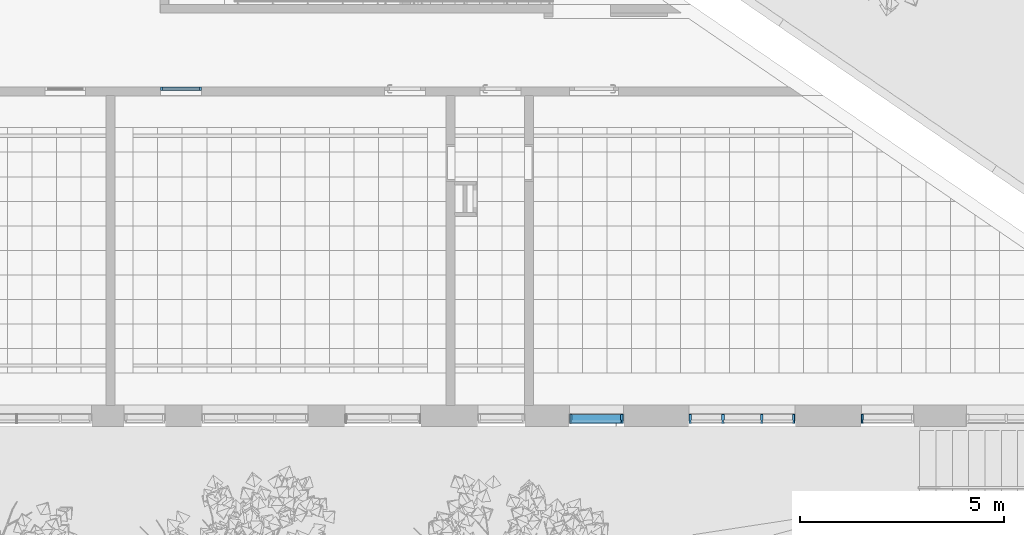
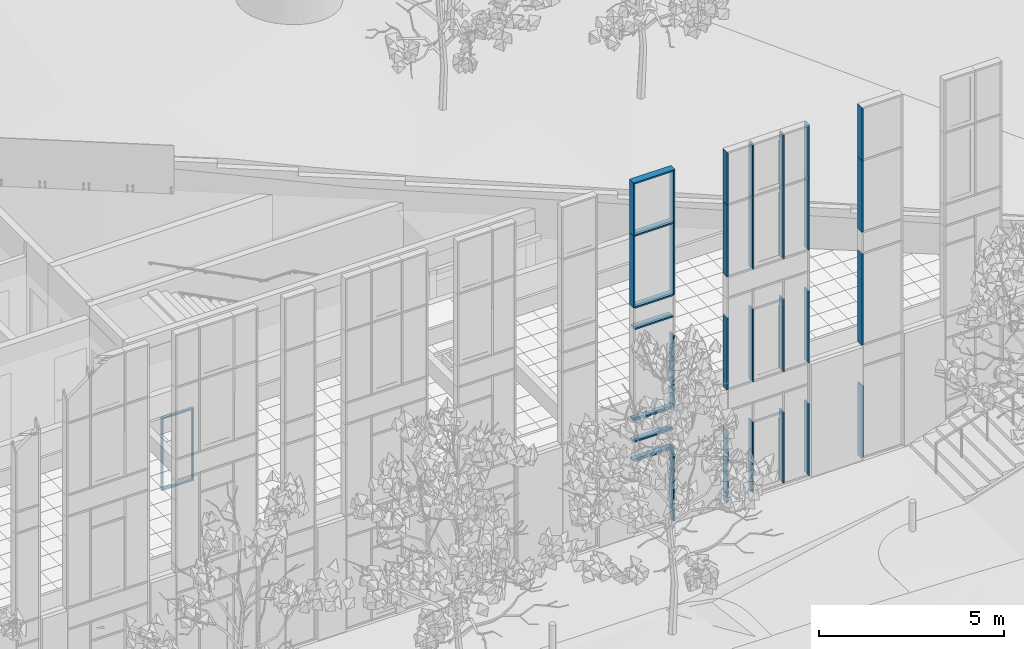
# One storey, part 27 of 246: 37 members, 4 elements without a shape of their own.
"""IFC2X3 building model written with IfcOpenShell, lengths in millimetres."""

from ifc_helpers import new_model, entity, si_unit, converted_unit, derived_unit, money_unit, direction, frame, origin_with_axes, place, context, subcontext, project, spatial, faceted_brep, source, transform, mapped, material, type_object, element, aggregate, save


model = new_model("IFC2X3")

# Units and contexts
model_context = context("Model", 3, precision=0.01, world=origin_with_axes(), true_north=direction((0.0, 1.0)))
body_context = subcontext(model_context, "Body", "Model", "MODEL_VIEW")
ifc_project = project(units=[si_unit("LENGTHUNIT", "METRE", prefix="MILLI"), si_unit("AREAUNIT", "SQUARE_METRE"), si_unit("VOLUMEUNIT", "CUBIC_METRE"), converted_unit("PLANEANGLEUNIT", "DEGREE", entity("IfcPlaneAngleMeasure", 0.0174532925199), si_unit("PLANEANGLEUNIT", "RADIAN"), dimensions=[0, 0, 0, 0, 0, 0, 0]), si_unit("SOLIDANGLEUNIT", "STERADIAN"), money_unit("EUR"), converted_unit("TIMEUNIT", "Year", entity("IfcTimeMeasure", 31556926.0), si_unit("TIMEUNIT", "SECOND"), dimensions=[0, 0, 1, 0, 0, 0, 0]), si_unit("MASSUNIT", "GRAM", prefix="KILO"), si_unit("THERMODYNAMICTEMPERATUREUNIT", "DEGREE_CELSIUS"), si_unit("LUMINOUSINTENSITYUNIT", "LUMEN"), si_unit("ENERGYUNIT", "JOULE", prefix="MEGA"), derived_unit("THERMALCONDUCTANCEUNIT", [(si_unit("POWERUNIT", "WATT"), 1), (si_unit("LENGTHUNIT", "METRE"), -1), (si_unit("THERMODYNAMICTEMPERATUREUNIT", "KELVIN"), -1)]), derived_unit("SPECIFICHEATCAPACITYUNIT", [(si_unit("ENERGYUNIT", "JOULE"), 1), (si_unit("MASSUNIT", "GRAM", prefix="KILO"), -1), (si_unit("THERMODYNAMICTEMPERATUREUNIT", "KELVIN"), -1)]), derived_unit("MASSDENSITYUNIT", [(si_unit("MASSUNIT", "GRAM", prefix="KILO"), 1), (si_unit("VOLUMEUNIT", "CUBIC_METRE"), -1)])], contexts=[model_context])

# Site, building, storey
site_placement = place(None, origin_with_axes())
site = spatial("IfcSite", under=ifc_project, at=site_placement, Name="L.Koidula tn 11b", CompositionType="ELEMENT")
building_placement = place(site_placement, origin_with_axes())
building = spatial("IfcBuilding", under=site, at=building_placement, Name="Rakvere Riigigümnaasium", CompositionType="ELEMENT")
storey_placement = place(building_placement, origin_with_axes())
storey = spatial("IfcBuildingStorey", under=building, at=storey_placement, Name="1.korrus 0,00", CompositionType="ELEMENT", Elevation=0.0)

# Curtain wall, member
curtain_wall_type = type_object("IfcCurtainWallType", Name="Curtain Wall Type", PredefinedType="NOTDEFINED")
curtain_wall_1_placement = place(storey_placement, frame((93770.0000115, 5111.45334637, -1.61944652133e-05), z_axis=(0.0, 0.0, 1.0), x_axis=(1.0, 0.0, 0.0)))
curtain_wall_1 = element("IfcCurtainWall", 1, at=curtain_wall_1_placement, inside=storey, type_object=curtain_wall_type, Name="KLF-05-1E")
ifc_material_1 = material(Name="Alumiiniumprofiil (RAL 7021)")
member_type_1 = type_object("IfcMemberType", Name="Boundary Frame 50 x 222", PredefinedType="MULLION")
shared_shape_1 = source(origin_with_axes(), body_context, "Body", "Brep", [
    faceted_brep([(37.0, -32.5, 2375.00000025), (37.0, 32.5, 2375.00000025), (50.0, 32.5, 2375.00000025), (50.0, 53.0, 2375.00000025), (0.0, 53.0, 2375.00000025), (0.0, -169.0, 2375.00000025), (50.0, -169.0, 2375.00000025), (50.0, -32.5, 2375.00000025), (37.0, -32.5, -2.4712543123e-07), (37.0, 32.5, -2.4712543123e-07), (50.0, 32.5, -2.47125653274e-07), (50.0, 53.0, -2.47125653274e-07), (0.0, 53.0, -2.47125653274e-07), (0.0, -169.0, -2.47125653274e-07), (50.0, -169.0, -2.47125653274e-07), (50.0, -32.5, -2.47125653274e-07)], [[[0, 1, 2, 3, 4, 5, 6, 7]], [[1, 0, 8, 9]], [[10, 2, 1, 9]], [[2, 10, 11, 3]], [[12, 4, 3, 11]], [[13, 5, 4, 12]], [[14, 6, 5, 13]], [[15, 7, 6, 14]], [[0, 7, 15, 8]], [[8, 15, 14, 13, 12, 11, 10, 9]]]),
])
member_1_placement = place(curtain_wall_1_placement, frame((-640.000084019, 0.0, 9840.0), z_axis=(0.0, 0.0, -1.0), x_axis=(1.0, 0.0, 0.0)))
member_1 = element("IfcMember", 2, at=member_1_placement, type_object=member_type_1, material=ifc_material_1, Name="KLF-05-4A-Profiilid", ObjectType="MULLION", context=body_context, shape_type="MappedRepresentation", body=[
    mapped(shared_shape_1, transform((0.0, 0.0, 0.0))),
])

# Curtain wall, members
curtain_wall_2_placement = place(storey_placement, frame((86440.3647921, 5111.45334637, -1.61944652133e-05), z_axis=(0.0, 0.0, 1.0), x_axis=(1.0, 0.0, 0.0)))
curtain_wall_2 = element("IfcCurtainWall", 3, at=curtain_wall_2_placement, inside=storey, type_object=curtain_wall_type, Name="KLF-05-1A")
member_2_placement = place(curtain_wall_2_placement, frame((859.6355553, 0.0, 3745.0), z_axis=(0.0, 0.0, 1.0), x_axis=(-1.0, 0.0, 0.0)))
member_2 = element("IfcMember", 4, at=member_2_placement, type_object=member_type_1, material=ifc_material_1, Name="KLF-05-2A-Profiilid", ObjectType="MULLION", context=body_context, shape_type="MappedRepresentation", body=[
    mapped(shared_shape_1, transform((0.0, 0.0, 0.0))),
])
member_3_placement = place(curtain_wall_2_placement, frame((859.635603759, 0.0, 7465.0), z_axis=(3.13708955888e-08, 0.0, 1.0), x_axis=(-1.0, 0.0, 3.13708955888e-08)))
member_3 = element("IfcMember", 5, at=member_3_placement, type_object=member_type_1, material=ifc_material_1, Name="KLF-05-5A-Profiilid", ObjectType="MULLION", context=body_context, shape_type="MappedRepresentation", body=[
    mapped(shared_shape_1, transform((0.0, 0.0, 0.0))),
])

curtain_wall_3_placement = place(storey_placement, frame((90220.0003282, 5111.43278481, -1.61944594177e-05), z_axis=(0.0, 0.0, 1.0), x_axis=(1.0, 0.0, 0.0)))
curtain_wall_3 = element("IfcCurtainWall", 6, at=curtain_wall_3_placement, inside=storey, type_object=curtain_wall_type, Name="KLF-05-3A")
member_4_placement = place(curtain_wall_3_placement, frame((1279.99946018, -0.0202452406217, 7465.0), z_axis=(2.10851387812e-09, 0.0, 1.0), x_axis=(-0.999999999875, 1.58166009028e-05, 2.10851387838e-09)))
member_4 = element("IfcMember", 7, at=member_4_placement, type_object=member_type_1, material=ifc_material_1, Name="KLF-05-1A-Profiilid", ObjectType="MULLION", context=body_context, shape_type="MappedRepresentation", body=[
    mapped(shared_shape_1, transform((0.0, 0.0, 0.0))),
])
member_5_placement = place(curtain_wall_3_placement, frame((1279.99946018, -0.0202452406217, 3745.0), z_axis=(0.0, 0.0, 1.0), x_axis=(-0.999999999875, 1.58166009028e-05, 0.0)))
member_5 = element("IfcMember", 8, at=member_5_placement, type_object=member_type_1, material=ifc_material_1, Name="KLF-05-8A-Profiilid", ObjectType="MULLION", context=body_context, shape_type="MappedRepresentation", body=[
    mapped(shared_shape_1, transform((0.0, 0.0, 0.0))),
])

# Member
shared_shape_2 = source(origin_with_axes(), body_context, "Body", "Brep", [
    faceted_brep([(-37.0, -32.5, 2375.0), (-50.0, -32.5, 2375.0), (-50.0, -169.0, 2375.0), (0.0, -169.0, 2375.0), (0.0, 53.0, 2375.0), (-50.0, 53.0, 2375.0), (-50.0, 32.5, 2375.0), (-37.0, 32.5, 2375.0), (-37.0, -32.5, 0.0), (-50.0, -32.5, 0.0), (-50.0, -169.0, 0.0), (0.0, -169.0, 0.0), (0.0, 53.0, 0.0), (-50.0, 53.0, 0.0), (-50.0, 32.5, 0.0), (-37.0, 32.5, 0.0)], [[[0, 1, 2, 3, 4, 5, 6, 7]], [[0, 8, 9, 1]], [[9, 10, 2, 1]], [[10, 11, 3, 2]], [[11, 12, 4, 3]], [[12, 13, 5, 4]], [[6, 5, 13, 14]], [[14, 15, 7, 6]], [[7, 15, 8, 0]], [[8, 15, 14, 13, 12, 11, 10, 9]]]),
])
member_6_placement = place(curtain_wall_2_placement, frame((-440.585924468, 0.0, 7465.0), z_axis=(0.0, 0.0, 1.0), x_axis=(-1.0, 0.0, 0.0)))
member_6 = element("IfcMember", 9, at=member_6_placement, type_object=member_type_1, material=ifc_material_1, Name="KLF-05-9A-Profiilid", ObjectType="MULLION", context=body_context, shape_type="MappedRepresentation", body=[
    mapped(shared_shape_2, transform((0.0, 0.0, 0.0))),
])

member_7_placement = place(curtain_wall_3_placement, frame((-1299.99999984, 0.0205615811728, 3745.0), z_axis=(0.0, 0.0, 1.0), x_axis=(-0.999999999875, 1.58166009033e-05, 0.0)))
member_7 = element("IfcMember", 10, at=member_7_placement, type_object=member_type_1, material=ifc_material_1, Name="KLF-05-0A-Profiilid", ObjectType="MULLION", context=body_context, shape_type="MappedRepresentation", body=[
    mapped(shared_shape_2, transform((0.0, 0.0, 0.0))),
])

member_8_placement = place(curtain_wall_3_placement, frame((-1299.99999984, 0.0205615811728, 7465.0), z_axis=(0.0, 0.0, 1.0), x_axis=(-0.999999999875, 1.58166009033e-05, 0.0)))
member_8 = element("IfcMember", 11, at=member_8_placement, type_object=member_type_1, material=ifc_material_1, Name="KLF-05-7A-Profiilid", ObjectType="MULLION", context=body_context, shape_type="MappedRepresentation", body=[
    mapped(shared_shape_2, transform((0.0, 0.0, 0.0))),
])

shared_shape_3 = source(origin_with_axes(), body_context, "Body", "Brep", [
    faceted_brep([(37.0, -32.5, 1712.99983191), (37.0, 32.5, 1712.99983191), (50.0, 32.5, 1699.99983191), (50.0, 53.0, 1699.99983191), (0.0, 53.0, 1749.99983191), (0.0, -169.0, 1749.99983191), (50.0, -169.0, 1699.99983191), (50.0, -32.5, 1699.99983191), (37.0, -32.5, -2.47125875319e-07), (37.0, 32.5, -2.47125875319e-07), (50.0, 32.5, -2.47125764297e-07), (50.0, 53.0, -2.47125764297e-07), (0.0, 53.0, -2.47125764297e-07), (0.0, -169.0, -2.47125764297e-07), (50.0, -169.0, -2.47125764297e-07), (50.0, -32.5, -2.47125764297e-07)], [[[0, 1, 2, 3, 4, 5, 6, 7]], [[1, 0, 8, 9]], [[10, 2, 1, 9]], [[2, 10, 11, 3]], [[12, 4, 3, 11]], [[13, 5, 4, 12]], [[14, 6, 5, 13]], [[15, 7, 6, 14]], [[0, 7, 15, 8]], [[8, 15, 14, 13, 12, 11, 10, 9]]]),
])
member_9_placement = place(curtain_wall_2_placement, frame((859.635678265, 0.0, 9840.0), z_axis=(0.0, 0.0, 1.0), x_axis=(-1.0, 0.0, 0.0)))
member_9 = element("IfcMember", 12, at=member_9_placement, type_object=member_type_1, material=ifc_material_1, Name="KLF-05-6A-Profiilid", ObjectType="MULLION", context=body_context, shape_type="MappedRepresentation", body=[
    mapped(shared_shape_3, transform((0.0, 0.0, 0.0))),
])

member_10_placement = place(curtain_wall_3_placement, frame((1279.99946519, -0.0202452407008, 9840.0), z_axis=(3.89462512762e-08, 0.0, 1.0), x_axis=(-0.999999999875, 1.58166009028e-05, 3.89462512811e-08)))
member_10 = element("IfcMember", 13, at=member_10_placement, type_object=member_type_1, material=ifc_material_1, Name="KLF-05-2A-Profiilid", ObjectType="MULLION", context=body_context, shape_type="MappedRepresentation", body=[
    mapped(shared_shape_3, transform((0.0, 0.0, 0.0))),
])

member_type_2 = type_object("IfcMemberType", Name="Mullion Frame 50 x 222", PredefinedType="MULLION")
shared_shape_4 = source(origin_with_axes(), body_context, "Body", "Brep", [
    faceted_brep([(-12.0, -32.5, 2375.0), (-25.0, -32.5, 2375.0), (-25.0, -169.0, 2375.0), (25.0, -169.0, 2375.0), (25.0, -32.5, 2375.0), (12.0, -32.5, 2375.0), (12.0, 32.5, 2375.0), (25.0, 32.5, 2375.0), (25.0, 53.0, 2375.0), (-25.0, 53.0, 2375.0), (-25.0, 32.5, 2375.0), (-12.0, 32.5, 2375.0), (-12.0, -32.5, -25.0), (-25.0, -32.5, -25.0), (-25.0, -169.0, -25.0), (25.0, -169.0, -25.0), (25.0, -32.5, -25.0), (12.0, -32.5, -25.0), (12.0, 32.5, -25.0), (25.0, 32.5, -25.0), (25.0, 53.0, -25.0), (-25.0, 53.0, -25.0), (-25.0, 32.5, -25.0), (-12.0, 32.5, -25.0)], [[[0, 1, 2, 3, 4, 5, 6, 7, 8, 9, 10, 11]], [[1, 0, 12, 13]], [[1, 13, 14, 2]], [[3, 2, 14, 15]], [[4, 3, 15, 16]], [[4, 16, 17, 5]], [[5, 17, 18, 6]], [[7, 6, 18, 19]], [[19, 20, 8, 7]], [[9, 8, 20, 21]], [[22, 10, 9, 21]], [[11, 10, 22, 23]], [[0, 11, 23, 12]], [[23, 22, 21, 20, 19, 18, 17, 16, 15, 14, 13, 12]]]),
])
member_11_placement = place(curtain_wall_3_placement, frame((474.999999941, -0.00751288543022, 7465.0), z_axis=(0.0, 0.0, 1.0), x_axis=(-0.999999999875, 1.58166009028e-05, 0.0)))
member_11 = element("IfcMember", 14, at=member_11_placement, type_object=member_type_2, material=ifc_material_1, Name="KLF-05-4A-Profiilid", ObjectType="MULLION", context=body_context, shape_type="MappedRepresentation", body=[
    mapped(shared_shape_4, transform((0.0, 0.0, 0.0))),
])

member_12_placement = place(curtain_wall_3_placement, frame((-474.999999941, 0.00751288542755, 3745.0), z_axis=(0.0, 0.0, 1.0), x_axis=(-0.999999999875, 1.58166009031e-05, 0.0)))
member_12 = element("IfcMember", 15, at=member_12_placement, type_object=member_type_2, material=ifc_material_1, Name="KLF-05-3A-Profiilid", ObjectType="MULLION", context=body_context, shape_type="MappedRepresentation", body=[
    mapped(shared_shape_4, transform((0.0, 0.0, 0.0))),
])

member_13_placement = place(curtain_wall_3_placement, frame((-474.999999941, 0.00751288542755, 7465.0), z_axis=(0.0, 0.0, 1.0), x_axis=(-0.999999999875, 1.58166009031e-05, 0.0)))
member_13 = element("IfcMember", 16, at=member_13_placement, type_object=member_type_2, material=ifc_material_1, Name="KLF-05-3A-Profiilid", ObjectType="MULLION", context=body_context, shape_type="MappedRepresentation", body=[
    mapped(shared_shape_4, transform((0.0, 0.0, 0.0))),
])

member_14_placement = place(curtain_wall_3_placement, frame((474.999999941, -0.00751288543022, 3745.0), z_axis=(0.0, 0.0, 1.0), x_axis=(-0.999999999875, 1.58166009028e-05, 0.0)))
member_14 = element("IfcMember", 17, at=member_14_placement, type_object=member_type_2, material=ifc_material_1, Name="KLF-05-3A-Profiilid", ObjectType="MULLION", context=body_context, shape_type="MappedRepresentation", body=[
    mapped(shared_shape_4, transform((0.0, 0.0, 0.0))),
])

shared_shape_5 = source(origin_with_axes(), body_context, "Body", "Brep", [
    faceted_brep([(37.0, -32.5, 2400.0), (37.0, 32.5, 2400.0), (50.0, 32.5, 2400.0), (50.0, 53.0, 2400.0), (0.0, 53.0, 2400.0), (0.0, -169.0, 2400.0), (50.0, -169.0, 2400.0), (50.0, -32.5, 2400.0), (37.0, -32.5, 37.0), (37.0, 32.5, 37.0), (50.0, 32.5, 50.0), (50.0, 53.0, 50.0), (0.0, 53.0, 0.0), (0.0, -169.0, 0.0), (50.0, -169.0, 50.0), (50.0, -32.5, 50.0)], [[[0, 1, 2, 3, 4, 5, 6, 7]], [[1, 0, 8, 9]], [[10, 2, 1, 9]], [[2, 10, 11, 3]], [[4, 3, 11, 12]], [[5, 4, 12, 13]], [[6, 5, 13, 14]], [[15, 7, 6, 14]], [[0, 7, 15, 8]], [[8, 15, 14, 13, 12, 11, 10, 9]]]),
])
member_15_placement = place(curtain_wall_3_placement, frame((1279.99946018, -0.0202452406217, 0.0), z_axis=(0.0, 0.0, 1.0), x_axis=(-0.999999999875, 1.58166009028e-05, 0.0)))
member_15 = element("IfcMember", 18, at=member_15_placement, type_object=member_type_1, material=ifc_material_1, Name="KLF-05-5A-Profiilid", ObjectType="MULLION", context=body_context, shape_type="MappedRepresentation", body=[
    mapped(shared_shape_5, transform((0.0, 0.0, 0.0))),
])

shared_shape_6 = source(origin_with_axes(), body_context, "Body", "Brep", [
    faceted_brep([(-12.0, -32.5, 1699.99983191), (-25.0, -32.5, 1699.99983191), (-25.0, -169.0, 1699.99983191), (25.0, -169.0, 1699.99983191), (25.0, -32.5, 1699.99983191), (12.0, -32.5, 1699.99983191), (12.0, 32.5, 1699.99983191), (25.0, 32.5, 1699.99983191), (25.0, 53.0, 1699.99983191), (-25.0, 53.0, 1699.99983191), (-25.0, 32.5, 1699.99983191), (-12.0, 32.5, 1699.99983191), (-12.0, -32.5, 0.0), (-25.0, -32.5, 0.0), (-25.0, -169.0, 0.0), (25.0, -169.0, 0.0), (25.0, -32.5, 0.0), (12.0, -32.5, 0.0), (12.0, 32.5, 0.0), (25.0, 32.5, 0.0), (25.0, 53.0, 0.0), (-25.0, 53.0, 0.0), (-25.0, 32.5, 0.0), (-12.0, 32.5, 0.0)], [[[0, 1, 2, 3, 4, 5, 6, 7, 8, 9, 10, 11]], [[1, 0, 12, 13]], [[1, 13, 14, 2]], [[3, 2, 14, 15]], [[4, 3, 15, 16]], [[4, 16, 17, 5]], [[5, 17, 18, 6]], [[7, 6, 18, 19]], [[19, 20, 8, 7]], [[9, 8, 20, 21]], [[22, 10, 9, 21]], [[11, 10, 22, 23]], [[0, 11, 23, 12]], [[23, 22, 21, 20, 19, 18, 17, 16, 15, 14, 13, 12]]]),
])
member_16_placement = place(curtain_wall_3_placement, frame((-474.999999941, 0.00751288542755, 9840.0), z_axis=(0.0, 0.0, 1.0), x_axis=(-0.999999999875, 1.58166009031e-05, 0.0)))
member_16 = element("IfcMember", 19, at=member_16_placement, type_object=member_type_2, material=ifc_material_1, Name="KLF-05-9A-Profiilid", ObjectType="MULLION", context=body_context, shape_type="MappedRepresentation", body=[
    mapped(shared_shape_6, transform((0.0, 0.0, 0.0))),
])

member_17_placement = place(curtain_wall_3_placement, frame((474.999999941, -0.00751288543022, 9840.0), z_axis=(0.0, 0.0, 1.0), x_axis=(-0.999999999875, 1.58166009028e-05, 0.0)))
member_17 = element("IfcMember", 20, at=member_17_placement, type_object=member_type_2, material=ifc_material_1, Name="KLF-05-0A-Profiilid", ObjectType="MULLION", context=body_context, shape_type="MappedRepresentation", body=[
    mapped(shared_shape_6, transform((0.0, 0.0, 0.0))),
])

shared_shape_7 = source(origin_with_axes(), body_context, "Body", "Brep", [
    faceted_brep([(-37.0, -32.5, 2400.0), (-50.0, -32.5, 2400.0), (-50.0, -169.0, 2400.0), (0.0, -169.0, 2400.0), (0.0, 53.0, 2400.0), (-50.0, 53.0, 2400.0), (-50.0, 32.5, 2400.0), (-37.0, 32.5, 2400.0), (-37.0, -32.5, 37.0), (-50.0, -32.5, 50.0), (-50.0, -169.0, 50.0), (0.0, -169.0, 0.0), (0.0, 53.0, 0.0), (-50.0, 53.0, 50.0), (-50.0, 32.5, 50.0), (-37.0, 32.5, 37.0)], [[[0, 1, 2, 3, 4, 5, 6, 7]], [[0, 8, 9, 1]], [[9, 10, 2, 1]], [[2, 10, 11, 3]], [[3, 11, 12, 4]], [[4, 12, 13, 5]], [[6, 5, 13, 14]], [[14, 15, 7, 6]], [[7, 15, 8, 0]], [[8, 15, 14, 13, 12, 11, 10, 9]]]),
])
member_18_placement = place(curtain_wall_3_placement, frame((-1299.99999984, 0.0205615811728, 0.0), z_axis=(0.0, 0.0, 1.0), x_axis=(-0.999999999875, 1.58166009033e-05, 0.0)))
member_18 = element("IfcMember", 21, at=member_18_placement, type_object=member_type_1, material=ifc_material_1, Name="KLF-05-1A-Profiilid", ObjectType="MULLION", context=body_context, shape_type="MappedRepresentation", body=[
    mapped(shared_shape_7, transform((0.0, 0.0, 0.0))),
])

shared_shape_8 = source(origin_with_axes(), body_context, "Body", "Brep", [
    faceted_brep([(-37.0, -32.5, 1712.99983191), (-50.0, -32.5, 1699.99983191), (-50.0, -169.0, 1699.99983191), (0.0, -169.0, 1749.99983191), (0.0, 53.0, 1749.99983191), (-50.0, 53.0, 1699.99983191), (-50.0, 32.5, 1699.99983191), (-37.0, 32.5, 1712.99983191), (-37.0, -32.5, 0.0), (-50.0, -32.5, 0.0), (-50.0, -169.0, 0.0), (0.0, -169.0, 0.0), (0.0, 53.0, 0.0), (-50.0, 53.0, 0.0), (-50.0, 32.5, 0.0), (-37.0, 32.5, 0.0)], [[[0, 1, 2, 3, 4, 5, 6, 7]], [[0, 8, 9, 1]], [[9, 10, 2, 1]], [[10, 11, 3, 2]], [[11, 12, 4, 3]], [[12, 13, 5, 4]], [[6, 5, 13, 14]], [[14, 15, 7, 6]], [[7, 15, 8, 0]], [[8, 15, 14, 13, 12, 11, 10, 9]]]),
])
member_19_placement = place(curtain_wall_2_placement, frame((-440.585924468, 0.0, 9840.0), z_axis=(0.0, 0.0, 1.0), x_axis=(-1.0, 0.0, 0.0)))
member_19 = element("IfcMember", 22, at=member_19_placement, type_object=member_type_1, material=ifc_material_1, Name="KLF-05-8A-Profiilid", ObjectType="MULLION", context=body_context, shape_type="MappedRepresentation", body=[
    mapped(shared_shape_8, transform((0.0, 0.0, 0.0))),
])

member_20_placement = place(curtain_wall_3_placement, frame((-1299.99999984, 0.0205615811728, 9840.0), z_axis=(0.0, 0.0, 1.0), x_axis=(-0.999999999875, 1.58166009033e-05, 0.0)))
member_20 = element("IfcMember", 23, at=member_20_placement, type_object=member_type_1, material=ifc_material_1, Name="KLF-05-6A-Profiilid", ObjectType="MULLION", context=body_context, shape_type="MappedRepresentation", body=[
    mapped(shared_shape_8, transform((0.0, 0.0, 0.0))),
])

shared_shape_9 = source(origin_with_axes(), body_context, "Body", "Brep", [
    faceted_brep([(37.0, -32.5, 3015.0), (37.0, 32.5, 3015.0), (50.0, 32.5, 3015.0), (50.0, 53.0, 3015.0), (0.0, 53.0, 3015.0), (0.0, -169.0, 3015.0), (50.0, -169.0, 3015.0), (50.0, -32.5, 3015.0), (37.0, -32.5, 0.0), (37.0, 32.5, 0.0), (50.0, 32.5, 0.0), (50.0, 53.0, 0.0), (0.0, 53.0, 0.0), (0.0, -169.0, 0.0), (50.0, -169.0, 0.0), (50.0, -32.5, 0.0)], [[[0, 1, 2, 3, 4, 5, 6, 7]], [[1, 0, 8, 9]], [[10, 2, 1, 9]], [[2, 10, 11, 3]], [[12, 4, 3, 11]], [[13, 5, 4, 12]], [[14, 6, 5, 13]], [[15, 7, 6, 14]], [[0, 7, 15, 8]], [[8, 15, 14, 13, 12, 11, 10, 9]]]),
])
member_21_placement = place(curtain_wall_1_placement, frame((-640.000084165, 0.0, 6760.0), z_axis=(0.0, 0.0, -1.0), x_axis=(1.0, 0.0, 0.0)))
member_21 = element("IfcMember", 24, at=member_21_placement, type_object=member_type_1, material=ifc_material_1, Name="KLF-05-6A-Profiilid", ObjectType="MULLION", context=body_context, shape_type="MappedRepresentation", body=[
    mapped(shared_shape_9, transform((0.0, 0.0, 0.0))),
])

shared_shape_10 = source(origin_with_axes(), body_context, "Body", "Brep", [
    faceted_brep([(-12.0, -32.5, 2400.0), (-25.0, -32.5, 2400.0), (-25.0, -169.0, 2400.0), (25.0, -169.0, 2400.0), (25.0, -32.5, 2400.0), (12.0, -32.5, 2400.0), (12.0, 32.5, 2400.0), (25.0, 32.5, 2400.0), (25.0, 53.0, 2400.0), (-25.0, 53.0, 2400.0), (-25.0, 32.5, 2400.0), (-12.0, 32.5, 2400.0), (-12.0, -32.5, 50.0), (-25.0, -32.5, 50.0), (-25.0, -169.0, 50.0), (25.0, -169.0, 50.0), (25.0, -32.5, 50.0), (12.0, -32.5, 50.0), (12.0, 32.5, 50.0), (25.0, 32.5, 50.0), (25.0, 53.0, 50.0), (-25.0, 53.0, 50.0), (-25.0, 32.5, 50.0), (-12.0, 32.5, 50.0)], [[[0, 1, 2, 3, 4, 5, 6, 7, 8, 9, 10, 11]], [[1, 0, 12, 13]], [[1, 13, 14, 2]], [[2, 14, 15, 3]], [[4, 3, 15, 16]], [[4, 16, 17, 5]], [[5, 17, 18, 6]], [[7, 6, 18, 19]], [[19, 20, 8, 7]], [[8, 20, 21, 9]], [[22, 10, 9, 21]], [[11, 10, 22, 23]], [[0, 11, 23, 12]], [[23, 22, 21, 20, 19, 18, 17, 16, 15, 14, 13, 12]]]),
])
member_22_placement = place(curtain_wall_3_placement, frame((-474.999999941, 0.00751288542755, 0.0), z_axis=(0.0, 0.0, 1.0), x_axis=(-0.999999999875, 1.58166009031e-05, 0.0)))
member_22 = element("IfcMember", 25, at=member_22_placement, type_object=member_type_2, material=ifc_material_1, Name="KLF-05-3A-Profiilid", ObjectType="MULLION", context=body_context, shape_type="MappedRepresentation", body=[
    mapped(shared_shape_10, transform((0.0, 0.0, 0.0))),
])

member_23_placement = place(curtain_wall_3_placement, frame((474.999999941, -0.00751288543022, 0.0), z_axis=(0.0, 0.0, 1.0), x_axis=(-0.999999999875, 1.58166009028e-05, 0.0)))
member_23 = element("IfcMember", 26, at=member_23_placement, type_object=member_type_2, material=ifc_material_1, Name="KLF-05-3A-Profiilid", ObjectType="MULLION", context=body_context, shape_type="MappedRepresentation", body=[
    mapped(shared_shape_10, transform((0.0, 0.0, 0.0))),
])

aggregate(curtain_wall_3, [member_22, member_23, member_11, member_12, member_13, member_14, member_18, member_7, member_8, member_4, member_5, member_15, member_20, member_16, member_17, member_10])

member_type_3 = type_object("IfcMemberType", Name="Transom Frame 50 x 222", PredefinedType="MULLION")
shared_shape_11 = source(origin_with_axes(), body_context, "Body", "Brep", [
    faceted_brep([(-12.0, -32.5, 1250.22152721), (-25.0, -32.5, 1250.22152721), (-25.0, -169.0, 1250.22152293), (25.0, -169.0, 1250.22152293), (25.0, -32.5, 1250.22152721), (12.0, -32.5, 1250.22152721), (12.0, 32.5, 1250.22152925), (25.0, 32.5, 1250.22152925), (25.0, 53.0, 1250.22152989), (-25.0, 53.0, 1250.22152989), (-25.0, 32.5, 1250.22152925), (-12.0, 32.5, 1250.22152925), (-12.0, -32.5, 50.0), (-25.0, -32.5, 50.0), (-25.0, -169.0, 50.0), (25.0, -169.0, 50.0), (25.0, -32.5, 50.0), (12.0, -32.5, 50.0), (12.0, 32.5, 50.0), (25.0, 32.5, 50.0), (25.0, 53.0, 50.0), (-25.0, 53.0, 50.0), (-25.0, 32.5, 50.0), (-12.0, 32.5, 50.0)], [[[0, 1, 2, 3, 4, 5, 6, 7, 8, 9, 10, 11]], [[1, 0, 12, 13]], [[1, 13, 14, 2]], [[2, 14, 15, 3]], [[4, 3, 15, 16]], [[4, 16, 17, 5]], [[5, 17, 18, 6]], [[7, 6, 18, 19]], [[19, 20, 8, 7]], [[8, 20, 21, 9]], [[22, 10, 9, 21]], [[11, 10, 22, 23]], [[0, 11, 23, 12]], [[23, 22, 21, 20, 19, 18, 17, 16, 15, 14, 13, 12]]]),
])
member_24_placement = place(curtain_wall_2_placement, frame((-440.585924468, 0.0, 7465.0), z_axis=(1.0, 0.0, 0.0), x_axis=(0.0, 0.0, 1.0)))
member_24 = element("IfcMember", 27, at=member_24_placement, type_object=member_type_3, material=ifc_material_1, Name="KLF-05-9A-Profiilid", ObjectType="MULLION", context=body_context, shape_type="MappedRepresentation", body=[
    mapped(shared_shape_11, transform((0.0, 0.0, 0.0))),
])

member_25_placement = place(curtain_wall_2_placement, frame((-440.585924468, 0.0, 6760.0), z_axis=(1.0, 0.0, 0.0), x_axis=(0.0, 0.0, 1.0)))
member_25 = element("IfcMember", 28, at=member_25_placement, type_object=member_type_3, material=ifc_material_1, Name="KLF-05-0A-Profiilid", ObjectType="MULLION", context=body_context, shape_type="MappedRepresentation", body=[
    mapped(shared_shape_11, transform((0.0, 0.0, 0.0))),
])

member_26_placement = place(curtain_wall_2_placement, frame((-440.585924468, 0.0, 9840.0), z_axis=(1.0, 0.0, 0.0), x_axis=(0.0, 0.0, 1.0)))
member_26 = element("IfcMember", 29, at=member_26_placement, type_object=member_type_3, material=ifc_material_1, Name="KLF-05-8A-Profiilid", ObjectType="MULLION", context=body_context, shape_type="MappedRepresentation", body=[
    mapped(shared_shape_11, transform((0.0, 0.0, 0.0))),
])

member_type_4 = type_object("IfcMemberType", Name="50 x 208", PredefinedType="MULLION")
shared_shape_12 = source(origin_with_axes(), body_context, "Body", "Brep", [
    faceted_brep([(-12.0, -27.0, 1228.68518613), (-25.0, -27.0, 1228.68518613), (-25.0, -160.0, 1228.68518613), (25.0, -160.0, 1228.68518613), (25.0, -27.0, 1228.68518613), (12.0, -27.0, 1228.68518613), (12.0, 27.0, 1228.68518613), (25.0, 27.0, 1228.68518613), (25.0, 48.0, 1228.68518613), (-25.0, 48.0, 1228.68518613), (-25.0, 27.0, 1228.68518613), (-12.0, 27.0, 1228.68518613), (-12.0, -27.0, 0.0), (-25.0, -27.0, 0.0), (-25.0, -160.0, 0.0), (25.0, -160.0, 0.0), (25.0, -27.0, 0.0), (12.0, -27.0, 0.0), (12.0, 27.0, 0.0), (25.0, 27.0, 0.0), (25.0, 48.0, 0.0), (-25.0, 48.0, 0.0), (-25.0, 27.0, 0.0), (-12.0, 27.0, 0.0)], [[[0, 1, 2, 3, 4, 5, 6, 7, 8, 9, 10, 11]], [[1, 0, 12, 13]], [[1, 13, 14, 2]], [[3, 2, 14, 15]], [[4, 3, 15, 16]], [[4, 16, 17, 5]], [[5, 17, 18, 6]], [[7, 6, 18, 19]], [[19, 20, 8, 7]], [[9, 8, 20, 21]], [[22, 10, 9, 21]], [[11, 10, 22, 23]], [[0, 11, 23, 12]], [[23, 22, 21, 20, 19, 18, 17, 16, 15, 14, 13, 12]]]),
])
member_27_placement = place(curtain_wall_2_placement, frame((-419.049630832, 0.0, 3745.0), z_axis=(1.0, 0.0, 0.0), x_axis=(0.0, 0.0, 1.0)))
member_27 = element("IfcMember", 30, at=member_27_placement, type_object=member_type_4, material=ifc_material_1, Name="KLF-01-1A-profiilid", ObjectType="MULLION", context=body_context, shape_type="MappedRepresentation", body=[
    mapped(shared_shape_12, transform((0.0, 0.0, 0.0))),
])

member_28_placement = place(curtain_wall_2_placement, frame((-419.049630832, 0.0, 3040.0), z_axis=(1.0, 0.0, 0.0), x_axis=(0.0, 0.0, 1.0)))
member_28 = element("IfcMember", 31, at=member_28_placement, type_object=member_type_4, material=ifc_material_1, Name="KLF-01-1A-profiilid", ObjectType="MULLION", context=body_context, shape_type="MappedRepresentation", body=[
    mapped(shared_shape_12, transform((0.0, 0.0, 0.0))),
])

member_29_placement = place(curtain_wall_2_placement, frame((-419.049630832, 0.0, 2400.0), z_axis=(1.0, 0.0, 0.0), x_axis=(0.0, 0.0, 1.0)))
member_29 = element("IfcMember", 32, at=member_29_placement, type_object=member_type_4, material=ifc_material_1, Name="KLF-01-1A-profiilid", ObjectType="MULLION", context=body_context, shape_type="MappedRepresentation", body=[
    mapped(shared_shape_12, transform((0.0, 0.0, 0.0))),
])

shared_shape_13 = source(origin_with_axes(), body_context, "Body", "Brep", [
    faceted_brep([(37.0, -32.5, 2363.0), (37.0, 32.5, 2363.0), (50.0, 32.5, 2350.0), (50.0, 53.0, 2350.0), (0.0, 53.0, 2400.0), (0.0, -169.0, 2400.0), (50.0, -169.0, 2350.0), (50.0, -32.5, 2350.0), (37.0, -32.5, 0.0), (37.0, 32.5, 0.0), (50.0, 32.5, 0.0), (50.0, 53.0, 0.0), (0.0, 53.0, 0.0), (0.0, -169.0, 0.0), (50.0, -169.0, 0.0), (50.0, -32.5, 0.0)], [[[0, 1, 2, 3, 4, 5, 6, 7]], [[1, 0, 8, 9]], [[10, 2, 1, 9]], [[2, 10, 11, 3]], [[12, 4, 3, 11]], [[13, 5, 4, 12]], [[14, 6, 5, 13]], [[15, 7, 6, 14]], [[0, 7, 15, 8]], [[8, 15, 14, 13, 12, 11, 10, 9]]]),
])
member_30_placement = place(curtain_wall_1_placement, frame((-640.000084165, 0.0, 2400.0), z_axis=(0.0, 0.0, -1.0), x_axis=(1.0, 0.0, 0.0)))
member_30 = element("IfcMember", 33, at=member_30_placement, type_object=member_type_1, material=ifc_material_1, Name="KLF-05-9A-Profiilid", ObjectType="MULLION", context=body_context, shape_type="MappedRepresentation", body=[
    mapped(shared_shape_13, transform((0.0, 0.0, 0.0))),
])

shared_shape_14 = source(origin_with_axes(), body_context, "Body", "Brep", [
    faceted_brep([(37.0, -32.5, 1749.99983313), (37.0, 32.5, 1749.99983313), (50.0, 32.5, 1749.99983313), (50.0, 53.0, 1749.99983313), (0.0, 53.0, 1749.99983313), (0.0, -169.0, 1749.99983313), (50.0, -169.0, 1749.99983313), (50.0, -32.5, 1749.99983313), (37.0, -32.5, 37.0000017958), (37.0, 32.5, 37.0000017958), (50.0, 32.5, 50.0000024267), (50.0, 53.0, 50.0000024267), (0.0, 53.0, 0.0), (0.0, -169.0, 0.0), (50.0, -169.0, 50.0000024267), (50.0, -32.5, 50.0000024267)], [[[0, 1, 2, 3, 4, 5, 6, 7]], [[1, 0, 8, 9]], [[10, 2, 1, 9]], [[2, 10, 11, 3]], [[4, 3, 11, 12]], [[5, 4, 12, 13]], [[6, 5, 13, 14]], [[15, 7, 6, 14]], [[0, 7, 15, 8]], [[8, 15, 14, 13, 12, 11, 10, 9]]]),
])
member_31_placement = place(curtain_wall_1_placement, frame((-640.000227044, 0.0, 11590.0000411), z_axis=(8.17285887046e-08, 0.0, -1.0), x_axis=(1.0, 0.0, 8.17285887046e-08)))
member_31 = element("IfcMember", 34, at=member_31_placement, type_object=member_type_1, material=ifc_material_1, Name="KLF-05-3A-Profiilid", ObjectType="MULLION", context=body_context, shape_type="MappedRepresentation", body=[
    mapped(shared_shape_14, transform((0.0, 0.0, 0.0))),
])

aggregate(curtain_wall_1, [member_21, member_30, member_1, member_31])

# Curtain wall, members
curtain_wall_4_placement = place(storey_placement, frame((76489.9798826, 13240.4508952, 0.0), z_axis=(0.0, 0.0, 1.0), x_axis=(1.0, 0.0, 0.0)))
curtain_wall_4 = element("IfcCurtainWall", 35, at=curtain_wall_4_placement, inside=storey, type_object=curtain_wall_type, Name="SKLF-09")
ifc_material_2 = material(Name="Klaasvill")
member_type_5 = type_object("IfcMemberType", Name="Boundary Frame 50 x 80", PredefinedType="MULLION")
shared_shape_15 = source(origin_with_axes(), body_context, "Body", "Brep", [
    faceted_brep([(-50.0, 40.0, 50.0), (-50.0, -40.0, 50.0), (-50.0, -40.0, 950.000004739), (-50.0, 40.0, 950.000004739), (0.0, 40.0, 0.0), (0.0, -40.0, 0.0), (0.0, -40.0, 1000.00000474), (0.0, 40.0, 1000.00000474)], [[[0, 1, 2, 3]], [[1, 0, 4, 5]], [[1, 5, 6, 2]], [[2, 6, 7, 3]], [[4, 0, 3, 7]], [[5, 4, 7, 6]]]),
])
member_32_placement = place(curtain_wall_4_placement, frame((-500.00000237, 0.0, 0.0), z_axis=(1.0, 0.0, 0.0), x_axis=(0.0, 0.0, 1.0)))
member_32 = element("IfcMember", 36, at=member_32_placement, type_object=member_type_5, material=ifc_material_2, Name="SKLF-26-raam", ObjectType="MULLION", context=body_context, shape_type="MappedRepresentation", body=[
    mapped(shared_shape_15, transform((0.0, 0.0, 0.0), x_axis=(-1.0, 0.0, 0.0), y_axis=(0.0, -1.0, 0.0), z_axis=(0.0, 0.0, 1.0))),
])
member_33_placement = place(curtain_wall_4_placement, frame((500.00000237, 0.0, 2400.0), z_axis=(-1.0, 0.0, 0.0), x_axis=(0.0, 0.0, -1.0)))
member_33 = element("IfcMember", 37, at=member_33_placement, type_object=member_type_5, material=ifc_material_2, Name="SKLF-28-raam", ObjectType="MULLION", context=body_context, shape_type="MappedRepresentation", body=[
    mapped(shared_shape_15, transform((0.0, 0.0, 0.0), x_axis=(-1.0, 0.0, 0.0), y_axis=(0.0, -1.0, 0.0), z_axis=(0.0, 0.0, 1.0))),
])
shared_shape_16 = source(origin_with_axes(), body_context, "Body", "Brep", [
    faceted_brep([(-50.0, 40.0, 50.0), (-50.0, -40.0, 50.0), (-50.0, -40.0, 2350.0), (-50.0, 40.0, 2350.0), (0.0, 40.0, 0.0), (0.0, -40.0, 0.0), (0.0, -40.0, 2400.0), (0.0, 40.0, 2400.0)], [[[0, 1, 2, 3]], [[1, 0, 4, 5]], [[1, 5, 6, 2]], [[2, 6, 7, 3]], [[4, 0, 3, 7]], [[5, 4, 7, 6]]]),
])
member_34_placement = place(curtain_wall_4_placement, frame((-500.00000237, 0.0, 2400.0), z_axis=(0.0, 0.0, -1.0), x_axis=(1.0, 0.0, 0.0)))
member_34 = element("IfcMember", 38, at=member_34_placement, type_object=member_type_5, material=ifc_material_2, Name="SKLF-29-raam", ObjectType="MULLION", context=body_context, shape_type="MappedRepresentation", body=[
    mapped(shared_shape_16, transform((0.0, 0.0, 0.0), x_axis=(-1.0, 0.0, 0.0), y_axis=(0.0, -1.0, 0.0), z_axis=(0.0, 0.0, 1.0))),
])
member_35_placement = place(curtain_wall_4_placement, frame((500.00000237, 0.0, 0.0), z_axis=(0.0, 0.0, 1.0), x_axis=(-1.0, 0.0, 0.0)))
member_35 = element("IfcMember", 39, at=member_35_placement, type_object=member_type_5, material=ifc_material_2, Name="SKLF-27-raam", ObjectType="MULLION", context=body_context, shape_type="MappedRepresentation", body=[
    mapped(shared_shape_16, transform((0.0, 0.0, 0.0), x_axis=(-1.0, 0.0, 0.0), y_axis=(0.0, -1.0, 0.0), z_axis=(0.0, 0.0, 1.0))),
])
aggregate(curtain_wall_4, [member_32, member_34, member_35, member_33])

# Member
shared_shape_17 = source(origin_with_axes(), body_context, "Body", "Brep", [
    faceted_brep([(37.0, -32.5, 2400.0), (37.0, 32.5, 2400.0), (50.0, 32.5, 2400.0), (50.0, 53.0, 2400.0), (0.0, 53.0, 2400.0), (0.0, -169.0, 2400.0), (50.0, -169.0, 2400.0), (50.0, -32.5, 2400.0), (37.0, -32.5, 0.0), (37.0, 32.5, 0.0), (50.0, 32.5, 0.0), (50.0, 53.0, 0.0), (0.0, 53.0, 0.0), (0.0, -169.0, 0.0), (50.0, -169.0, 0.0), (50.0, -32.5, 0.0)], [[[0, 1, 2, 3, 4, 5, 6, 7]], [[1, 0, 8, 9]], [[10, 2, 1, 9]], [[2, 10, 11, 3]], [[12, 4, 3, 11]], [[13, 5, 4, 12]], [[14, 6, 5, 13]], [[15, 7, 6, 14]], [[0, 7, 15, 8]], [[8, 15, 14, 13, 12, 11, 10, 9]]]),
])
member_36_placement = place(curtain_wall_2_placement, frame((859.6355553, 0.0, 0.0), z_axis=(0.0, 0.0, 1.0), x_axis=(-1.0, 0.0, 0.0)))
member_36 = element("IfcMember", 40, at=member_36_placement, type_object=member_type_1, material=ifc_material_1, Name="KLF-05-9A-Profiilid", ObjectType="MULLION", context=body_context, shape_type="MappedRepresentation", body=[
    mapped(shared_shape_17, transform((0.0, 0.0, 0.0))),
])

shared_shape_18 = source(origin_with_axes(), body_context, "Body", "Brep", [
    faceted_brep([(37.0, -32.5, 1263.22160273), (37.0, 32.5, 1263.22160273), (50.0, 32.5, 1250.22160273), (50.0, 53.0, 1250.22160273), (0.0, 53.0, 1300.22160273), (0.0, -169.0, 1300.22160273), (50.0, -169.0, 1250.22160273), (50.0, -32.5, 1250.22160273), (37.0, -32.5, 37.0), (37.0, 32.5, 37.0), (50.0, 32.5, 50.0), (50.0, 53.0, 50.0), (0.0, 53.0, 0.0), (0.0, -169.0, 0.0), (50.0, -169.0, 50.0), (50.0, -32.5, 50.0)], [[[0, 1, 2, 3, 4, 5, 6, 7]], [[1, 0, 8, 9]], [[10, 2, 1, 9]], [[2, 10, 11, 3]], [[4, 3, 11, 12]], [[5, 4, 12, 13]], [[6, 5, 13, 14]], [[15, 7, 6, 14]], [[0, 7, 15, 8]], [[8, 15, 14, 13, 12, 11, 10, 9]]]),
])
member_37_placement = place(curtain_wall_2_placement, frame((859.635678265, 0.0, 11590.0000411), z_axis=(-1.0, 0.0, 0.0), x_axis=(0.0, 0.0, -1.0)))
member_37 = element("IfcMember", 41, at=member_37_placement, type_object=member_type_1, material=ifc_material_1, Name="KLF-05-7A-Profiilid", ObjectType="MULLION", context=body_context, shape_type="MappedRepresentation", body=[
    mapped(shared_shape_18, transform((0.0, 0.0, 0.0))),
])

aggregate(curtain_wall_2, [member_24, member_25, member_2, member_27, member_28, member_29, member_36, member_6, member_3, member_26, member_19, member_37, member_9])

save(model, "model.ifc")
